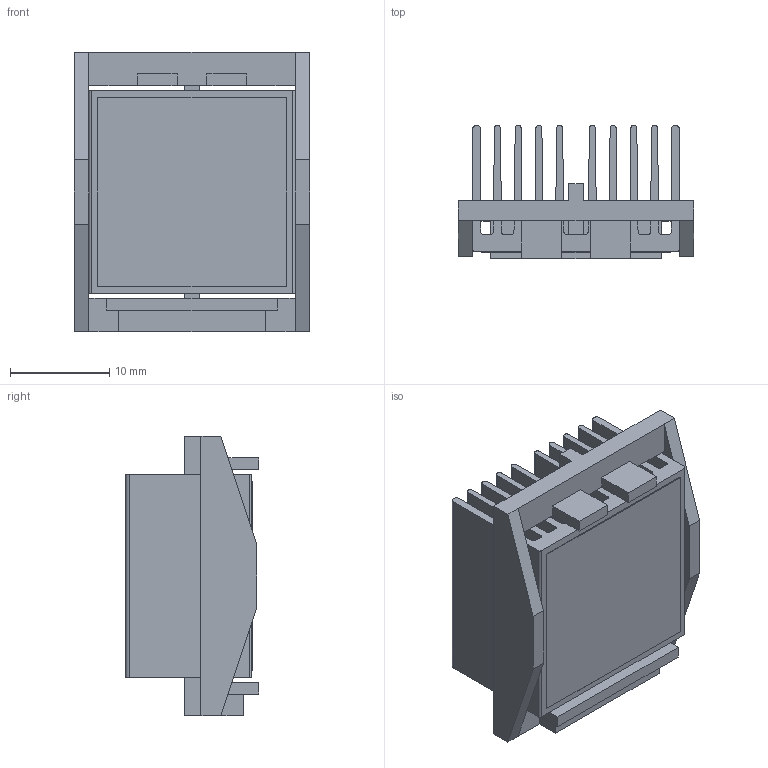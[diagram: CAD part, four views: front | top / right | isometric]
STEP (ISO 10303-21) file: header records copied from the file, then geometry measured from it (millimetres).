
FILE_DESCRIPTION (( 'STEP AP214' ), '1' );
FILE_NAME ('INL21001-13-1.7O.STEP', '2023-02-21T16:17:36', ( '' ), ( '' ), 'SwSTEP 2.0', 'SolidWorks 2020', '' );
FILE_SCHEMA (( 'AUTOMOTIVE_DESIGN' ));
Length unit declared in the file: millimetre
Products named in the file (1): INL21001-13-1.7O
Bounding box: 23.7 x 13.4 x 28.1 mm (x, y, z)
Volume: 3318.6 mm3; surface area: 7752.1 mm2
Topology: 3 solids, 3 shells, 116 faces, 332 edges, 220 vertices
Faces by surface type: plane 86, cylinder 30
Entity records: 5096 total; most frequent: CARTESIAN_POINT 669, ORIENTED_EDGE 664, DIRECTION 626, EDGE_CURVE 332, VECTOR 272, LINE 272, VERTEX_POINT 220, AXIS2_PLACEMENT_3D 177
